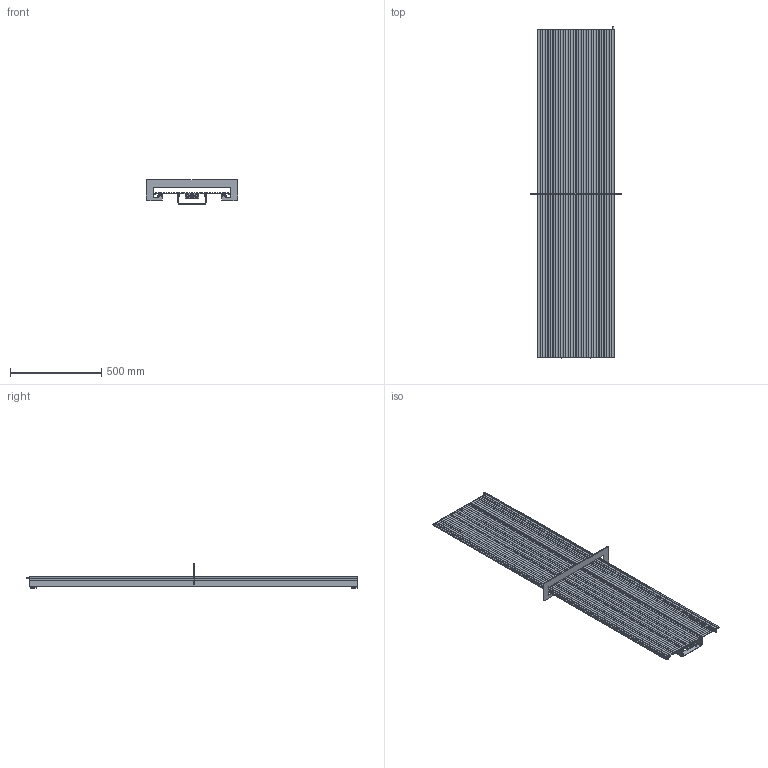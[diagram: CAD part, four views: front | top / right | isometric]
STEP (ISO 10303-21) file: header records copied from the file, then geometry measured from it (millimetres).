
FILE_DESCRIPTION (( 'STEP AP203' ), '1' );
FILE_NAME ('CALEIDO 1000 RIGHE.STEP', '2026-03-03T12:49:49', ( '' ), ( '' ), 'SwSTEP 2.0', 'SolidWorks 2025', '' );
FILE_SCHEMA (( 'CONFIG_CONTROL_DESIGN' ));
Length unit declared in the file: millimetre
Products named in the file (9): 101151; TAPPO GRANDE; STAFFA; TAPPO PICCOLO; CALEIDO 1000 RIGHE; 1000-RIGHE_1800; D0071119.stp; STAFFA.stp; 101152
Assembly tree (11 placements, depth 4):
  CALEIDO 1000 RIGHE
    1000-RIGHE_1800
    STAFFA  x2
      STAFFA.stp
        D0071119.stp
    TAPPO GRANDE  x2
    TAPPO PICCOLO  x2
    101152
    101151
Bounding box: 504 x 1820 x 134.6 mm (x, y, z)
Volume: 5495587.9 mm3; surface area: 2918100.1 mm2
Topology: 17 solids, 17 shells, 662 faces, 1745 edges, 1086 vertices
Faces by surface type: cylinder 306, bspline 183, plane 171, cone 2
Entity records: 19996 total; most frequent: CARTESIAN_POINT 7521, ORIENTED_EDGE 2706, DIRECTION 2144, EDGE_CURVE 1353, VERTEX_POINT 868, AXIS2_PLACEMENT_3D 816, EDGE_LOOP 517, LINE 512
